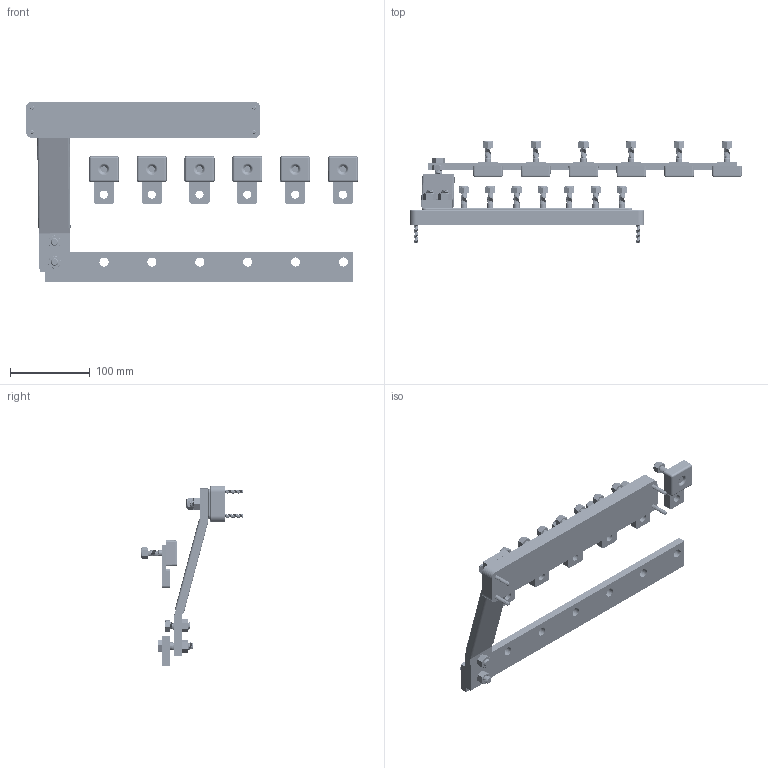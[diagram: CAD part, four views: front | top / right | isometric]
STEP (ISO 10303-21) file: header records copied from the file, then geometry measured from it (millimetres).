
FILE_DESCRIPTION (( 'STEP AP214' ), '1' );
FILE_NAME ('Provided Parts.STEP', '2020-01-13T17:00:16', ( '' ), ( '' ), 'SwSTEP 2.0', 'SolidWorks 2014', '' );
FILE_SCHEMA (( 'AUTOMOTIVE_DESIGN' ));
Length unit declared in the file: inch
Products named in the file (20): 90600A558_BUTTON HEAD TORX MACHINE SCREW_90600A558; 92941A626_BRASS HEX HEAD CAP SCREW_92941A626; Part33^Simple Stud array 8pos; Part7^Assem2; Part5^Assem2; 92941A587_BRASS HEX HEAD CAP SCREW (1)_92941A587; 92092A030_BRASS NYLON-INSERT LOCKNUT_92092A030; 1106071; Part56^Relay Bus; 91145A185_NYLON 6-6 UNTHREADED SHLDR SPACER W FLANGE (1)_91145A185; Part52^Relay Bus; 1105504; Part51^Relay Bus; Part74^Assem18; Provided Parts; 92676A450_BRASS HEX NUT_92676A450; 92941A624_BRASS HEX HEAD CAP SCREW_92941A624; 92941A628_BRASS HEX HEAD CAP SCREW_92941A628; 1106193; 1106194
Assembly tree (51 placements, depth 3):
  Part51^Relay Bus
  Provided Parts
    1105504
    1106194
      91145A185_NYLON 6-6 UNTHREADED SHLDR SPACER W FLANGE (1)_91145A185  x7
      92092A030_BRASS NYLON-INSERT LOCKNUT_92092A030  x7
      92941A587_BRASS HEX HEAD CAP SCREW (1)_92941A587  x7
      Part5^Assem2
      Part7^Assem2
      Part33^Simple Stud array 8pos
      92941A626_BRASS HEX HEAD CAP SCREW_92941A626  x2
      90600A558_BUTTON HEAD TORX MACHINE SCREW_90600A558  x4
    1106193
    92941A628_BRASS HEX HEAD CAP SCREW_92941A628
    92941A624_BRASS HEX HEAD CAP SCREW_92941A624
    92676A450_BRASS HEX NUT_92676A450  x4
    1106071  x6
      Part74^Assem18
      91145A185_NYLON 6-6 UNTHREADED SHLDR SPACER W FLANGE (1)_91145A185
      92941A587_BRASS HEX HEAD CAP SCREW (1)_92941A587
      92092A030_BRASS NYLON-INSERT LOCKNUT_92092A030
      Part52^Relay Bus
      Part56^Relay Bus
Bounding box: 416.3 x 128.32 x 226.8 mm (x, y, z)
Volume: 731576.3 mm3; surface area: 309483.8 mm2
Topology: 88 solids, 88 shells, 3554 faces, 8671 edges, 5401 vertices
Faces by surface type: cylinder 1617, plane 882, cone 858, torus 90, bspline 75, sphere 32
Entity records: 47307 total; most frequent: CARTESIAN_POINT 26409, ORIENTED_EDGE 4062, DIRECTION 3466, EDGE_CURVE 2031, VERTEX_POINT 1297, AXIS2_PLACEMENT_3D 1276, LINE 914, VECTOR 914
